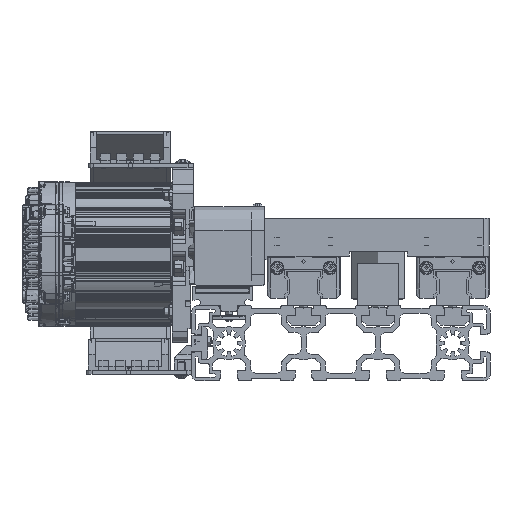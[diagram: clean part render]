
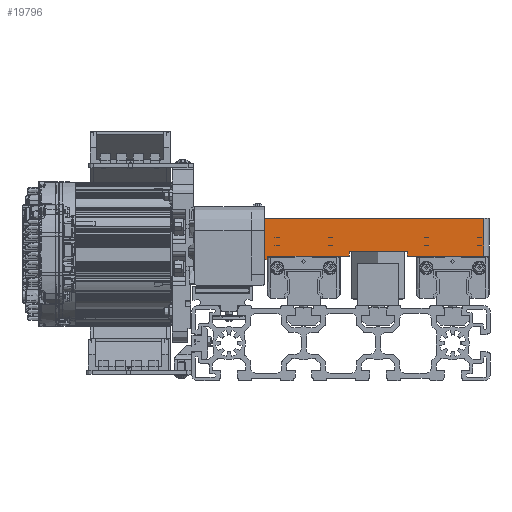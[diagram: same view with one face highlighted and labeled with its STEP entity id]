
A CAD part, front view. The second image highlights one B-rep face of the part: STEP entity #19796.
In plain terms, the highlighted planar face has unit normal (0, -1, 0) as drawn and (1, 0, 0) by its records, which use the part's own axes.
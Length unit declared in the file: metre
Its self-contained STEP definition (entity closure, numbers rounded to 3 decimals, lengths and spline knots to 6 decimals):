
#19796 = ADVANCED_FACE( '', ( #41335 ), #41336, .F. );
#41335 = FACE_OUTER_BOUND( '', #108706, .T. );
#41336 = PLANE( '', #108707 );
#108706 = EDGE_LOOP( '', ( #182293, #182294, #182295, #182296, #182297, #182298, #182299, #182300, #182301, #182302 ) );
#108707 = AXIS2_PLACEMENT_3D( '', #182303, #182304, #182305 );
#182293 = ORIENTED_EDGE( '', *, *, #224314, .F. );
#182294 = ORIENTED_EDGE( '', *, *, #224566, .F. );
#182295 = ORIENTED_EDGE( '', *, *, #217806, .T. );
#182296 = ORIENTED_EDGE( '', *, *, #218017, .T. );
#182297 = ORIENTED_EDGE( '', *, *, #224726, .F. );
#182298 = ORIENTED_EDGE( '', *, *, #220579, .F. );
#182299 = ORIENTED_EDGE( '', *, *, #224727, .F. );
#182300 = ORIENTED_EDGE( '', *, *, #221255, .F. );
#182301 = ORIENTED_EDGE( '', *, *, #222979, .T. );
#182302 = ORIENTED_EDGE( '', *, *, #219742, .T. );
#182303 = CARTESIAN_POINT( '', ( 0.08, -0.01905, 0.07167 ) );
#182304 = DIRECTION( '', ( -1., 0., 0. ) );
#182305 = DIRECTION( '', ( 0., 0., -1. ) );
#217806 = EDGE_CURVE( '', #251125, #251129, #251131, .T. );
#218017 = EDGE_CURVE( '', #251129, #251448, #251450, .T. );
#219742 = EDGE_CURVE( '', #253920, #253918, #253921, .T. );
#220579 = EDGE_CURVE( '', #255137, #255132, #255139, .T. );
#221255 = EDGE_CURVE( '', #256038, #256040, #256041, .T. );
#222979 = EDGE_CURVE( '', #256038, #253920, #258377, .T. );
#224314 = EDGE_CURVE( '', #260069, #253918, #260071, .T. );
#224566 = EDGE_CURVE( '', #251125, #260069, #260400, .T. );
#224726 = EDGE_CURVE( '', #255132, #251448, #260597, .T. );
#224727 = EDGE_CURVE( '', #256040, #255137, #260598, .T. );
#251125 = VERTEX_POINT( '', #321312 );
#251129 = VERTEX_POINT( '', #321317 );
#251131 = LINE( '', #321319, #321320 );
#251448 = VERTEX_POINT( '', #321962 );
#251450 = LINE( '', #321965, #321966 );
#253918 = VERTEX_POINT( '', #328175 );
#253920 = VERTEX_POINT( '', #328178 );
#253921 = LINE( '', #328179, #328180 );
#255132 = VERTEX_POINT( '', #330607 );
#255137 = VERTEX_POINT( '', #330614 );
#255139 = LINE( '', #330617, #330618 );
#256038 = VERTEX_POINT( '', #333230 );
#256040 = VERTEX_POINT( '', #333233 );
#256041 = LINE( '', #333234, #333235 );
#258377 = LINE( '', #339066, #339067 );
#260069 = VERTEX_POINT( '', #343527 );
#260071 = LINE( '', #343530, #343531 );
#260400 = LINE( '', #344245, #344246 );
#260597 = LINE( '', #344987, #344988 );
#260598 = LINE( '', #344989, #344990 );
#321312 = CARTESIAN_POINT( '', ( 0.08, -0.00381, -0.068495 ) );
#321317 = CARTESIAN_POINT( '', ( 0.08, 0.01905, -0.068495 ) );
#321319 = CARTESIAN_POINT( '', ( 0.08, -0.01905, -0.068495 ) );
#321320 = VECTOR( '', #375001, 1. );
#321962 = CARTESIAN_POINT( '', ( 0.08, 0.01905, 0.06405 ) );
#321965 = CARTESIAN_POINT( '', ( 0.08, 0.01905, 0.07167 ) );
#321966 = VECTOR( '', #375269, 1. );
#328175 = CARTESIAN_POINT( '', ( 0.08, -0.00081, -0.02217 ) );
#328178 = CARTESIAN_POINT( '', ( 0.08, -0.00081, 0.01283 ) );
#328179 = CARTESIAN_POINT( '', ( 0.08, -0.00081, -0.01342 ) );
#328180 = VECTOR( '', #377309, 1. );
#330607 = CARTESIAN_POINT( '', ( 0.08, -0.005842, 0.06405 ) );
#330614 = CARTESIAN_POINT( '', ( 0.08, -0.005842, 0.06233 ) );
#330617 = CARTESIAN_POINT( '', ( 0.08, -0.005842, -0.07167 ) );
#330618 = VECTOR( '', #378405, 1. );
#333230 = CARTESIAN_POINT( '', ( 0.08, -0.00381, 0.01283 ) );
#333233 = CARTESIAN_POINT( '', ( 0.08, -0.00381, 0.06233 ) );
#333234 = CARTESIAN_POINT( '', ( 0.08, -0.00381, -0.07167 ) );
#333235 = VECTOR( '', #379127, 1. );
#339066 = CARTESIAN_POINT( '', ( 0.08, -0.00231, 0.01283 ) );
#339067 = VECTOR( '', #381274, 1. );
#343527 = CARTESIAN_POINT( '', ( 0.08, -0.00381, -0.02217 ) );
#343530 = CARTESIAN_POINT( '', ( 0.08, -0.00231, -0.02217 ) );
#343531 = VECTOR( '', #382693, 1. );
#344245 = CARTESIAN_POINT( '', ( 0.08, -0.00381, -0.07167 ) );
#344246 = VECTOR( '', #382975, 1. );
#344987 = CARTESIAN_POINT( '', ( 0.08, 0.01905, 0.06405 ) );
#344988 = VECTOR( '', #383102, 1. );
#344989 = CARTESIAN_POINT( '', ( 0.08, -0.01905, 0.06233 ) );
#344990 = VECTOR( '', #383103, 1. );
#375001 = DIRECTION( '', ( 0., 1., 0. ) );
#375269 = DIRECTION( '', ( 0., 0., 1. ) );
#377309 = DIRECTION( '', ( 0., 0., -1. ) );
#378405 = DIRECTION( '', ( 0., 0., 1. ) );
#379127 = DIRECTION( '', ( 0., 0., 1. ) );
#381274 = DIRECTION( '', ( 0., 1., 0. ) );
#382693 = DIRECTION( '', ( 0., 1., 0. ) );
#382975 = DIRECTION( '', ( 0., 0., 1. ) );
#383102 = DIRECTION( '', ( 0., 1., 0. ) );
#383103 = DIRECTION( '', ( 0., -1., 0. ) );
